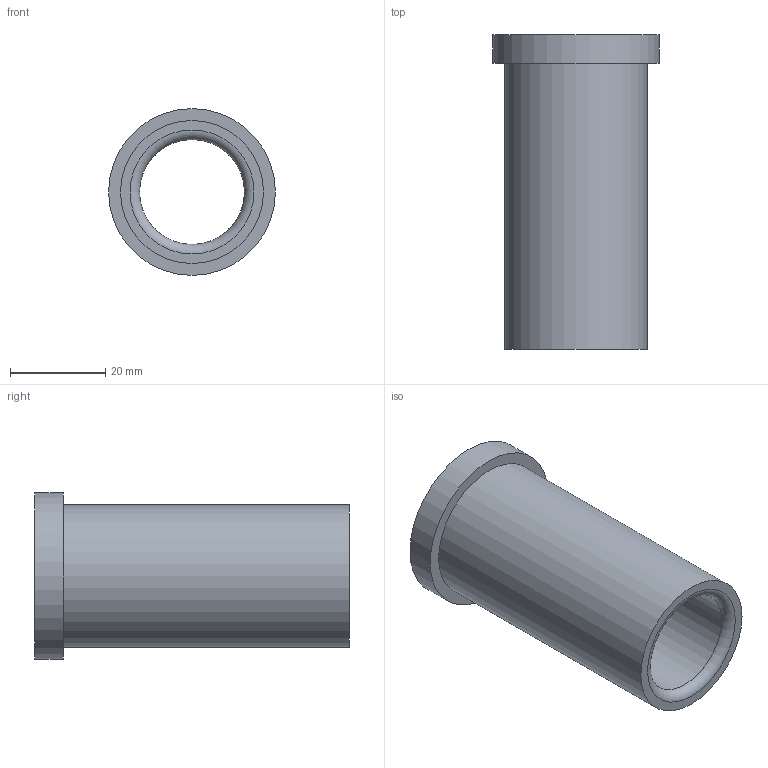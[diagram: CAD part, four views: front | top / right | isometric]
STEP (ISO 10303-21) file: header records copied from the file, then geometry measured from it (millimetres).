
FILE_DESCRIPTION(/* description */ ('STEP AP214'),/* implementation_level */ '2;1');
FILE_NAME(/* name */ '03_12_17850',/* time_stamp */ '2023-06-15T11:35:34+02:00',/* author */ ('License CC BY-ND 4.0'),/* organization */ ('CADENAS'),/* preprocessor_version */ 'ST-DEVELOPER v19.3',/* originating_system */ 'PARTsolutions',/* authorisation */ ' ');
FILE_SCHEMA (('AUTOMOTIVE_DESIGN {1 0 10303 214 3 1 1}'));
Length unit declared in the file: millimetre
Products named in the file (1): VA_Bushing_17850
Bounding box: 35 x 66 x 35 mm (x, y, z)
Volume: 22692.9 mm3; surface area: 11948.3 mm2
Topology: 1 solids, 1 shells, 10 faces, 16 edges, 10 vertices
Faces by surface type: cylinder 4, plane 4, torus 2
Full cylindrical faces by diameter (mm): 22 x1, 22.6 x1, 30 x1, 35 x1
Entity records: 302 total; most frequent: DIRECTION 42, CARTESIAN_POINT 31, AXIS2_PLACEMENT_3D 21, ORIENTED_EDGE 20, EDGE_LOOP 20, FACE_BOUND 20, EDGE_CURVE 10, VERTEX_POINT 10
